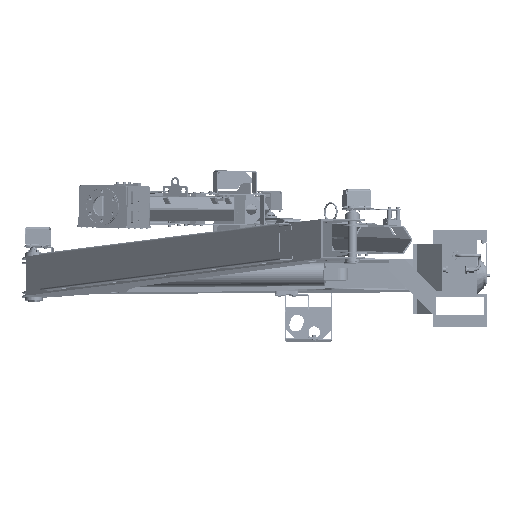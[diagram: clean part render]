
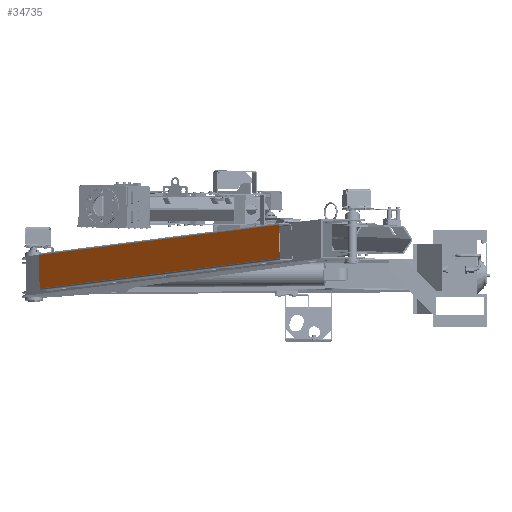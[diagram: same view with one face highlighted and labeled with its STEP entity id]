
A CAD part, left-side view. The second image highlights one B-rep face of the part: STEP entity #34735.
In plain terms, the highlighted planar face has unit normal (-0.681, 0.731, 0.036) as drawn and (0, 1, 0) by its records, which use the part's own axes.
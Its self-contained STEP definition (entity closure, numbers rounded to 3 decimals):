
#7851 = ORIENTED_EDGE ( 'NONE', *, *, #86658, .F. ) ;
#10993 = EDGE_CURVE ( 'NONE', #122324, #174452, #33770, .T. ) ;
#12702 = DIRECTION ( 'NONE',  ( 1., 0., 0. ) ) ;
#15178 = EDGE_CURVE ( 'NONE', #208850, #123589, #20544, .T. ) ;
#20378 = VECTOR ( 'NONE', #138506, 1000. ) ;
#20544 = LINE ( 'NONE', #79492, #28312 ) ;
#20784 = FACE_OUTER_BOUND ( 'NONE', #138868, .T. ) ;
#28312 = VECTOR ( 'NONE', #193245, 1000. ) ;
#33770 = LINE ( 'NONE', #99338, #184001 ) ;
#34735 = ADVANCED_FACE ( 'NONE', ( #20784 ), #91178, .T. ) ;
#35072 = CARTESIAN_POINT ( 'NONE',  ( 57., 60., 600. ) ) ;
#35773 = LINE ( 'NONE', #186872, #20378 ) ;
#44115 = DIRECTION ( 'NONE',  ( -1., 0., 0. ) ) ;
#56386 = EDGE_CURVE ( 'NONE', #122324, #208850, #151598, .T. ) ;
#64529 = AXIS2_PLACEMENT_3D ( 'NONE', #125228, #123825, #44115 ) ;
#71238 = CARTESIAN_POINT ( 'NONE',  ( -57., 60., -600. ) ) ;
#79492 = CARTESIAN_POINT ( 'NONE',  ( 57., 60., 600. ) ) ;
#86658 = EDGE_CURVE ( 'NONE', #174452, #123589, #35773, .T. ) ;
#91178 = PLANE ( 'NONE',  #64529 ) ;
#93271 = ORIENTED_EDGE ( 'NONE', *, *, #15178, .T. ) ;
#99338 = CARTESIAN_POINT ( 'NONE',  ( -57., 60., 600. ) ) ;
#110284 = CARTESIAN_POINT ( 'NONE',  ( -57., 60., 600. ) ) ;
#117981 = CARTESIAN_POINT ( 'NONE',  ( 57., 60., -600. ) ) ;
#118051 = CARTESIAN_POINT ( 'NONE',  ( -57., 60., 600. ) ) ;
#121387 = ORIENTED_EDGE ( 'NONE', *, *, #56386, .T. ) ;
#122324 = VERTEX_POINT ( 'NONE', #118051 ) ;
#123589 = VERTEX_POINT ( 'NONE', #117981 ) ;
#123825 = DIRECTION ( 'NONE',  ( 0., 1., 0. ) ) ;
#125228 = CARTESIAN_POINT ( 'NONE',  ( -57., 60., 600. ) ) ;
#138506 = DIRECTION ( 'NONE',  ( 1., 0., 0. ) ) ;
#138868 = EDGE_LOOP ( 'NONE', ( #7851, #196339, #121387, #93271 ) ) ;
#151598 = LINE ( 'NONE', #110284, #169323 ) ;
#163292 = DIRECTION ( 'NONE',  ( 0., 0., -1. ) ) ;
#169323 = VECTOR ( 'NONE', #12702, 1000. ) ;
#174452 = VERTEX_POINT ( 'NONE', #71238 ) ;
#184001 = VECTOR ( 'NONE', #163292, 1000. ) ;
#186872 = CARTESIAN_POINT ( 'NONE',  ( -57., 60., -600. ) ) ;
#193245 = DIRECTION ( 'NONE',  ( 0., 0., -1. ) ) ;
#196339 = ORIENTED_EDGE ( 'NONE', *, *, #10993, .F. ) ;
#208850 = VERTEX_POINT ( 'NONE', #35072 ) ;
